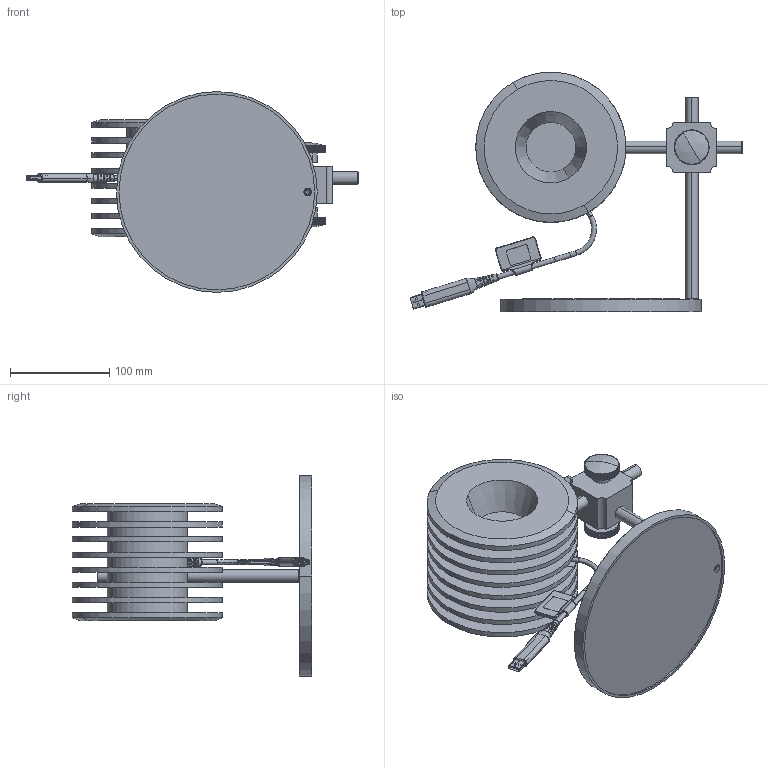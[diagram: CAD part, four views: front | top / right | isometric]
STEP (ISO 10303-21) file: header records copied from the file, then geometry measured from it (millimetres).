
FILE_DESCRIPTION (( 'STEP AP214' ), '1' );
FILE_NAME ('1223336 with stand.STEP', '2013-06-03T17:59:42', ( 'coherent' ), ( '' ), 'SwSTEP 2.0', 'SolidWorks 2012', '' );
FILE_SCHEMA (( 'AUTOMOTIVE_DESIGN' ));
Length unit declared in the file: inch
Products named in the file (1): 1223336 with stand
Bounding box: 333.95 x 240.92 x 201.93 mm (x, y, z)
Volume: 1353242.9 mm3; surface area: 433534.6 mm2
Topology: 30 solids, 31 shells, 3390 faces, 8921 edges, 5648 vertices
Faces by surface type: cylinder 1641, plane 1086, cone 556, bspline 57, torus 46, sphere 4
Entity records: 195641 total; most frequent: CARTESIAN_POINT 71827, ORIENTED_EDGE 17774, DIRECTION 15660, EDGE_CURVE 8887, VERTEX_POINT 5648, AXIS2_PLACEMENT_3D 5615, LINE 4430, VECTOR 4430
